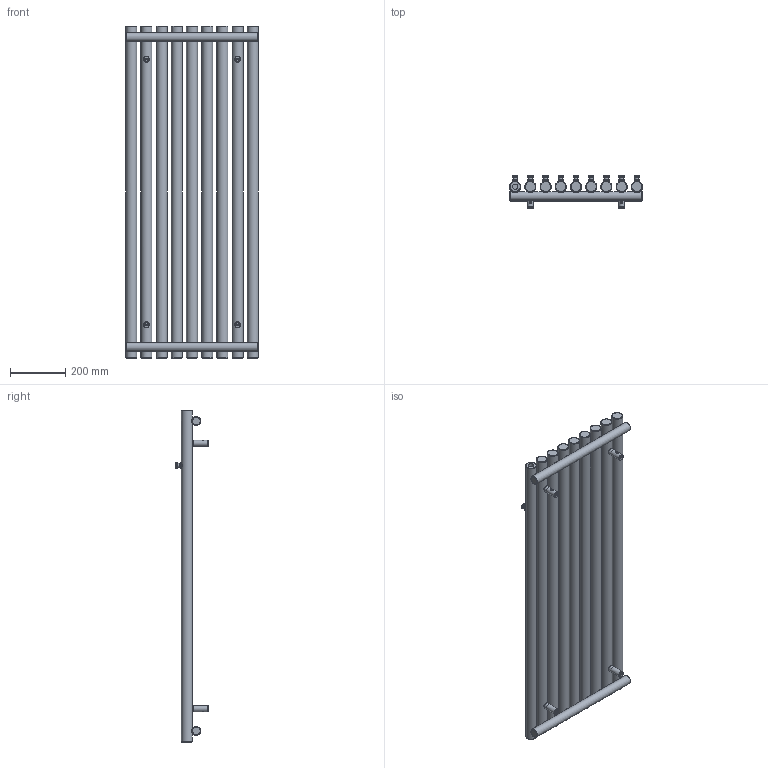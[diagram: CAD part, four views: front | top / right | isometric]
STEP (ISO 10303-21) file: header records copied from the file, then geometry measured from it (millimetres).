
FILE_DESCRIPTION(/* description */ (''),/* implementation_level */ '2;1');
FILE_NAME(/* name */ 'Z:\R\G\P\RGP116 - Grzejniki Geyser\Work\Inventor\Circolo (Rolo V, Rolo H)\ROLO-HANGER\Marketing\Bryły\Zaokrąglone\WGROW120048-SX-CK-(Z).stp',/* time_stamp */ '2024-02-02T13:26:14+01:00',/* author */ ('NowAd'),/* organization */ (''),/* preprocessor_version */ 'ST-DEVELOPER v17.2',/* originating_system */ 'Autodesk Inventor 2019',/* authorisation */ '');
FILE_SCHEMA (('AUTOMOTIVE_DESIGN { 1 0 10303 214 3 1 1 }'));
Length unit declared in the file: millimetre
Products named in the file (3): WGROR120048-SX-CK-(Z); PGROR120048-SX-CK-(K); CK-V-fi40 marketing
Assembly tree (5 placements, depth 2):
  WGROR120048-SX-CK-(Z)
    PGROR120048-SX-CK-(K)
    CK-V-fi40 marketing  x4
Bounding box: 480 x 116.5 x 1200 mm (x, y, z)
Volume: 14424320.6 mm3; surface area: 1512188.6 mm2
Topology: 5 solids, 5 shells, 455 faces, 1152 edges, 785 vertices
Faces by surface type: plane 168, cylinder 105, torus 95, cone 60, bspline 27
Full cylindrical faces by diameter (mm): 4.134 x4, 4.48 x4, 6.4 x4, 10 x4, 12 x4, 14 x9, 15.834 x4, 16 x4, 18.631 x3, 20 x18, 22 x4, 32 x2, 40 x9
Entity records: 13356 total; most frequent: CARTESIAN_POINT 6493, DIRECTION 1515, ORIENTED_EDGE 1360, AXIS2_PLACEMENT_3D 700, EDGE_CURVE 680, VERTEX_POINT 476, CIRCLE 439, EDGE_LOOP 354
